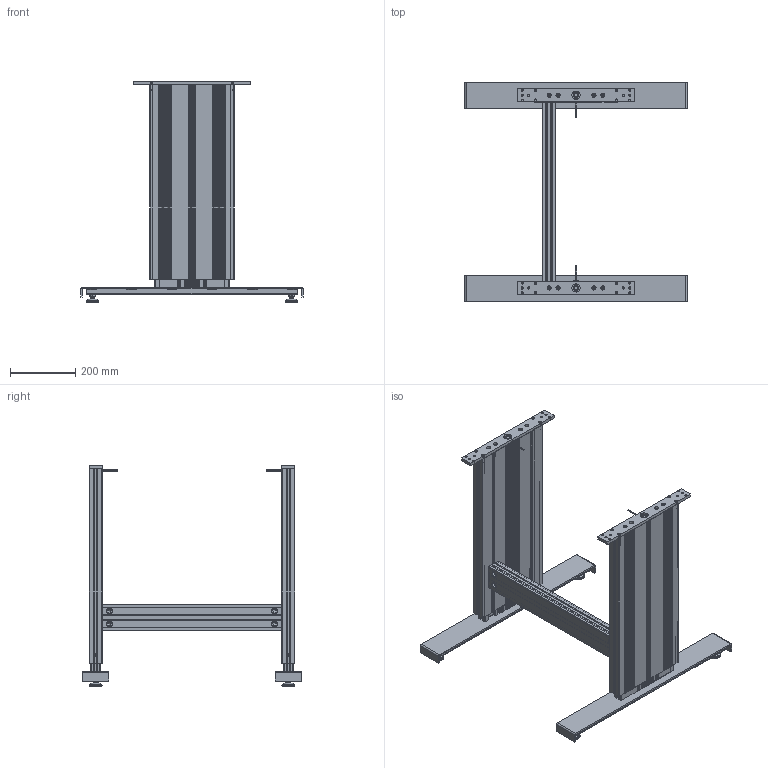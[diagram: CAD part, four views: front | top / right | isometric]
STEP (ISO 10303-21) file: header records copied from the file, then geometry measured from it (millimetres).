
FILE_DESCRIPTION(/* description */ ('Unknown'),/* implementation_level */ '2;1');
FILE_NAME(/* name */ '108.00181 Untergestell TT-2 1440 590_eingefahren',/* time_stamp */ '2017-11-24T15:21:02+01:00',/* author */ ('Unknown'),/* organization */ ('Unknown'),/* preprocessor_version */ 'ST-DEVELOPER v16.7',/* originating_system */ 'DEX',/* authorisation */ $);
FILE_SCHEMA (('AUTOMOTIVE_DESIGN {1 0 10303 214 3 1 1}'));
Products named in the file (31): 108.00181; 106.00315_oa_0; 119.00201; 119.00152; 124.00004; 142.00188; 142.00166; 142.00031; 126.00102; 107.00027_oa_1; 115.00007_oa_2; 125.00021; 125.00033; 142.00021; 113.00002_70mm; 106.00315_oa_3; 107.00027_oa_4; 115.00007_oa_5; 115.00091; 119.00171; 142.00207; 127.00515; 127.00520; 127.00556; 127.00557; 127.00520_461_469_Kehlnaht 1_oa_6; 113.00095; 113.00099; 113.00096; 113.00097; 113.00098
Assembly tree (54 placements, depth 5):
  108.00181
    106.00315_oa_0
      119.00201
      119.00152
      124.00004
      142.00188  x2
      142.00166  x4
      142.00031
      126.00102
      107.00027_oa_1
        115.00007_oa_2
        125.00021
        125.00033
        142.00021
      113.00002_70mm
    106.00315_oa_3
      119.00201
      119.00152
      124.00004
      142.00188  x2
      142.00166  x4
      142.00031
      126.00102
      107.00027_oa_4
        115.00007_oa_5
        125.00021
        125.00033
        142.00021
      113.00002_70mm
    115.00091
      119.00171
      142.00207  x4
    127.00515  x2
      127.00520
        127.00556
        127.00557
        127.00520_461_469_Kehlnaht 1_oa_6
      113.00095
        113.00099
        113.00096
          113.00097
          113.00098
Bounding box: 680 x 670 x 676.5 mm (x, y, z)
Volume: 6624228.1 mm3; surface area: 4771407.9 mm2
Topology: 75 solids, 83 shells, 4902 faces, 13934 edges, 9262 vertices
Faces by surface type: plane 3044, cylinder 1552, cone 196, torus 76, bspline 24, sphere 10
Full cylindrical faces by diameter (mm): 1.8 x4, 2.2 x2, 2.78 x2, 3.242 x4, 3.5 x2, 4 x6, 4.1 x2, 4.2 x2, 5 x12, 5.5 x8, 6.6 x8, 6.647 x16, 6.917 x4, 7.5 x4, 8 x18, 8.376 x6, 8.5 x20, 8.7 x8, 9 x2, 10 x8, 11.3 x8, 12 x6, 12.5 x10, 13 x4, 13.5 x6, 13.7 x2, 13.9 x4, 18 x16, 25 x10, 27.2 x4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
Entity records: 85551 total; most frequent: CARTESIAN_POINT 14631, ORIENTED_EDGE 13082, DIRECTION 12741, EDGE_CURVE 6541, LINE 4481, VECTOR 4481, VERTEX_POINT 4432, AXIS2_PLACEMENT_3D 4130
